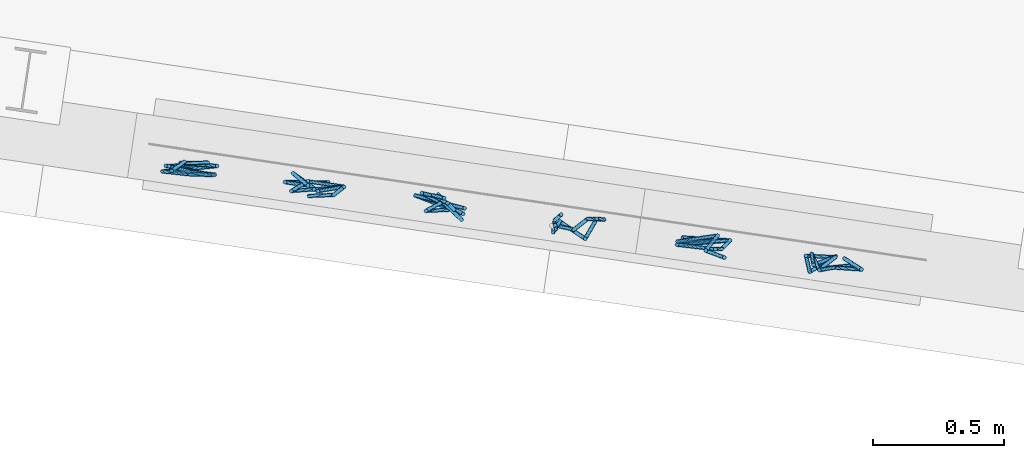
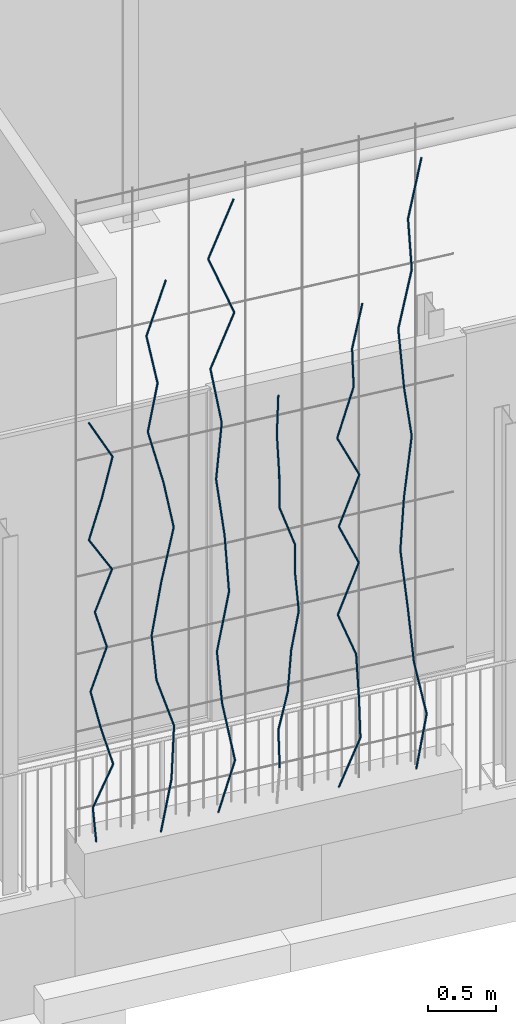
# One storey, part 116 of 142: 65 members, 1 element without a shape of its own.
"""IFC4 building model written with IfcOpenShell, lengths in metres."""

import ifcopenshell
import ifcopenshell.guid

model = None  # the IFC model being written
_history = None  # IfcOwnerHistory: only IFC2X3 demands one
_inside = {}  # id of a spatial element -> (the spatial element, [elements in it])
_under = {}  # id of a project, library or spatial element -> (it, [spatial elements below it])
_declared = {}  # id of a project -> (the project, [libraries it declares])
_typed = {}  # id of a type object -> (the type object, [elements of that type])
_made_of = {}  # id of a material, layer set ... -> (it, [elements and type objects made of it])


def new_model(schema):
    """Start an empty IFC model of exactly this schema.

    Asked for "IFC4X3", IfcOpenShell would pick the latest addendum, in which some entities
    have other attributes; the version numbers below select the first issue.
    IFC2X3 requires an IfcOwnerHistory on every rooted entity: one is made here for all.
    """
    global model, _history
    if schema == "IFC4X3":
        model = ifcopenshell.file(schema_version=(4, 3, 0, 0))
    else:
        model = ifcopenshell.file(schema=schema)
    _inside.clear()
    _under.clear()
    _declared.clear()
    _typed.clear()
    _made_of.clear()
    _history = None
    if model.schema == "IFC2X3":
        org = make("IfcOrganization", Name="unknown")
        user = make(
            "IfcPersonAndOrganization",
            ThePerson=make("IfcPerson", FamilyName="unknown"),
            TheOrganization=org,
        )
        app = make(
            "IfcApplication",
            ApplicationDeveloper=org,
            Version="unknown",
            ApplicationFullName="unknown",
            ApplicationIdentifier="unknown",
        )
        _history = make(
            "IfcOwnerHistory",
            OwningUser=user,
            OwningApplication=app,
            ChangeAction="ADDED",
            CreationDate=0,
        )
    return model


def make(cls, **values):
    """One entity of the class cls with the attributes given. An attribute that is None is left unset."""
    return model.create_entity(
        cls, **{name: value for name, value in values.items() if value is not None}
    )


def rooted(cls, **values):
    """An entity with a GlobalId (a new one), such as an element, a storey or a relation."""
    return make(cls, GlobalId=ifcopenshell.guid.new(), OwnerHistory=_history, **values)


def si_unit(unit_type, name, prefix=None):
    """IfcSIUnit, for example si_unit("LENGTHUNIT", "METRE", prefix="MILLI")."""
    return make("IfcSIUnit", UnitType=unit_type, Prefix=prefix, Name=name)


def assignment(units):
    """IfcUnitAssignment: the units of a project."""
    return None if units is None else make("IfcUnitAssignment", Units=units)


def point(xyz):
    """IfcCartesianPoint."""
    return None if xyz is None else make("IfcCartesianPoint", Coordinates=xyz)


def direction(xyz):
    """IfcDirection."""
    return None if xyz is None else make("IfcDirection", DirectionRatios=xyz)


def frame(location, z_axis=None, x_axis=None):
    """IfcAxis2Placement3D, a coordinate frame: its origin and axes. An axis left out is left unset."""
    return make(
        "IfcAxis2Placement3D",
        Location=point(location),
        Axis=direction(z_axis),
        RefDirection=direction(x_axis),
    )


def origin_with_axes():
    """The frame at (0, 0, 0) with the z axis (0, 0, 1) and the x axis (1, 0, 0) written out."""
    return frame((0.0, 0.0, 0.0), z_axis=(0.0, 0.0, 1.0), x_axis=(1.0, 0.0, 0.0))


def place(relative_to, where):
    """IfcLocalPlacement: puts the frame where relative to a parent placement (None: the world)."""
    return make(
        "IfcLocalPlacement", PlacementRelTo=relative_to, RelativePlacement=where
    )


def context(
    kind, dimensions, precision=None, world=None, true_north=None, identifier=None
):
    """IfcGeometricRepresentationContext, for example the 3D "Model" context."""
    return make(
        "IfcGeometricRepresentationContext",
        ContextIdentifier=identifier,
        ContextType=kind,
        CoordinateSpaceDimension=dimensions,
        Precision=precision,
        WorldCoordinateSystem=world,
        TrueNorth=true_north,
    )


def subcontext(parent, identifier, kind, view, scale=None):
    """IfcGeometricRepresentationSubContext, for example "Body" below "Model"."""
    return make(
        "IfcGeometricRepresentationSubContext",
        ContextIdentifier=identifier,
        ContextType=kind,
        ParentContext=parent,
        TargetScale=scale,
        TargetView=view,
    )


def project(units=None, contexts=None):
    """IfcProject with its units and contexts."""
    return rooted(
        "IfcProject",
        Name="project",
        RepresentationContexts=contexts,
        UnitsInContext=assignment(units),
    )


def spatial(cls, under=None, at=None, **own):
    """A site, building, storey or space (cls), placed at a placement, below another one or the project."""
    s = rooted(cls, ObjectPlacement=at, **own)
    if under is not None:
        _under.setdefault(under.id(), (under, []))[1].append(s)
    return s


def profile(cls, at=None, kind="AREA", **sizes):
    """A parametric profile (cls). Its sizes go by their IFC names, for example OverallWidth=200.0."""
    return make(cls, ProfileType=kind, Position=at, **sizes)


def circle(**sizes):
    """IfcCircleProfileDef."""
    return profile("IfcCircleProfileDef", **sizes)


def extrude(swept, where, along, depth):
    """IfcExtrudedAreaSolid: the profile swept, set in the frame where, extruded along a direction by depth."""
    return make(
        "IfcExtrudedAreaSolid",
        SweptArea=swept,
        Position=where,
        ExtrudedDirection=direction(along),
        Depth=depth,
    )


def shape(context_of_items, identifier, shape_type, items):
    """IfcShapeRepresentation: the items that make up one representation, for example the "Body"."""
    return make(
        "IfcShapeRepresentation",
        ContextOfItems=context_of_items,
        RepresentationIdentifier=identifier,
        RepresentationType=shape_type,
        Items=items,
    )


def material(Name=None, Category=None):
    """IfcMaterial."""
    return make("IfcMaterial", Name=Name, Category=Category)


def material_profile(
    of_material, cross_section, Name=None, Category=None, Priority=None
):
    """IfcMaterialProfile: a cross section and its material."""
    return make(
        "IfcMaterialProfile",
        Name=Name,
        Material=of_material,
        Profile=cross_section,
        Priority=Priority,
        Category=Category,
    )


def profile_set(profiles, Name=None, composite=None):
    """IfcMaterialProfileSet."""
    return make(
        "IfcMaterialProfileSet",
        Name=Name,
        MaterialProfiles=profiles,
        CompositeProfile=composite,
    )


def profile_usage(for_profile_set, cardinal=None, extent=None):
    """IfcMaterialProfileSetUsage: how a profile set lies along its element."""
    return make(
        "IfcMaterialProfileSetUsage",
        ForProfileSet=for_profile_set,
        CardinalPoint=cardinal,
        ReferenceExtent=extent,
    )


def made_of(thing, what):
    """Note that an element or type object is made of a material, layer set ...; save() writes the relation."""
    if what is not None:
        _made_of.setdefault(what.id(), (what, []))[1].append(thing)
    return thing


def type_object(cls, material=None, **own):
    """A type object (cls), such as IfcWallType, which elements share."""
    return made_of(rooted(cls, **own), material)


def element(
    cls,
    number,
    at=None,
    inside=None,
    cuts=None,
    type_object=None,
    material=None,
    context=None,
    identifier="Body",
    shape_type=None,
    held_by="IfcProductDefinitionShape",
    body=None,
    shapes=None,
    **own,
):
    """One element of the class cls, such as IfcWall. Its Tag is "e" and its number.

    at: its placement. inside: the storey or other place that contains it. cuts: it is an
    opening in that element (IfcRelVoidsElement). A single representation is given by context,
    identifier, shape_type and body (its items); several are given by shapes. held_by: the class
    of the entity that holds the representations. save() writes the other relations.
    """
    e = rooted(cls, Tag="e%d" % number, ObjectPlacement=at, **own)
    if body is not None:
        shapes = [shape(context, identifier, shape_type, body)]
    if shapes is not None:
        e.Representation = make(held_by, Representations=shapes)
    if inside is not None:
        _inside.setdefault(inside.id(), (inside, []))[1].append(e)
    if cuts is not None:
        rooted(
            "IfcRelVoidsElement", RelatingBuildingElement=cuts, RelatedOpeningElement=e
        )
    if type_object is not None:
        _typed.setdefault(type_object.id(), (type_object, []))[1].append(e)
    return made_of(e, material)


def aggregate(whole, parts):
    """IfcRelAggregates: a whole, such as a stair, and the parts it consists of."""
    return rooted("IfcRelAggregates", RelatingObject=whole, RelatedObjects=parts)


def save(model, path):
    """Write the relations noted so far, then the file.

    IfcRelAggregates (storeys below a building ...), IfcRelContainedInSpatialStructure (elements
    in a storey), IfcRelDefinesByType, IfcRelAssociatesMaterial and IfcRelDeclares: one each for
    every whole, place, type object, material and project.
    """
    for whole, parts in _under.values():
        aggregate(whole, parts)
    for where, things in _inside.values():
        rooted(
            "IfcRelContainedInSpatialStructure",
            RelatedElements=things,
            RelatingStructure=where,
        )
    for kind, things in _typed.values():
        rooted("IfcRelDefinesByType", RelatedObjects=things, RelatingType=kind)
    for what, things in _made_of.values():
        rooted("IfcRelAssociatesMaterial", RelatedObjects=things, RelatingMaterial=what)
    for by, libraries in _declared.values():
        rooted("IfcRelDeclares", RelatingContext=by, RelatedDefinitions=libraries)
    model.write(path)


model = new_model("IFC4")

# Units and contexts
model_context = context("Model", 3, precision=1e-05, world=origin_with_axes(), true_north=direction((0.0, 1.0)))
body_context = subcontext(model_context, "Body", "Model", "MODEL_VIEW")
ifc_project = project(units=[si_unit("VOLUMEUNIT", "CUBIC_METRE"), si_unit("LENGTHUNIT", "METRE"), si_unit("AREAUNIT", "SQUARE_METRE")], contexts=[model_context])

# Site, building, storey
site_placement = place(None, origin_with_axes())
site = spatial("IfcSite", under=ifc_project, at=site_placement, Name="Lares · Rua das Mercês · artigo 4771")
building_placement = place(site_placement, frame((12.0, 10.2, 13.9), z_axis=(0.0, 0.0, 1.0), x_axis=(0.989015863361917, -0.147809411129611, 0.0)))
building = spatial("IfcBuilding", under=site, at=building_placement, Name="Casa Sobreposta")
storey_placement = place(building_placement, origin_with_axes())
storey = spatial("IfcBuildingStorey", under=building, at=storey_placement, Name="00 · Habitação e estacionamento", Elevation=13.9)

# Assembly, members
assembly_placement = place(storey_placement, origin_with_axes())
assembly = element("IfcElementAssembly", 1, at=assembly_placement, inside=storey, Name="Fachada sul e pátio · estrutura e trepadeiras", ObjectType="LIVING_SHADE_TRELLIS", PredefinedType="USERDEFINED")
ifc_material = material(Name="Ramos de trepadeiras", Category="wood")
ifc_material_profile = material_profile(ifc_material, circle(Radius=0.0075))
ifc_profile_set = profile_set([ifc_material_profile], Name="D0.015")
ifc_profile_usage_1 = profile_usage(ifc_profile_set)
member_type = type_object("IfcMemberType", Name="D0.015 / vine_wood", PredefinedType="NOTDEFINED", material=ifc_profile_set)
member_1_placement = place(assembly_placement, frame((16.6437823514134, -1.65744029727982, 0.35), z_axis=(-0.125335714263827, -0.117489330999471, 0.985133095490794), x_axis=(-0.683901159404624, 0.729574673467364, 0.0)))
member_1 = element("IfcMember", 2, at=member_1_placement, type_object=member_type, material=ifc_profile_usage_1, Name="Trepadeiras · ramo", context=body_context, shape_type="SweptSolid", body=[
    extrude(circle(Radius=0.0075), origin_with_axes(), (0.0, 0.0, 1.0), 0.352596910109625),
])
ifc_profile_usage_2 = profile_usage(ifc_profile_set)
member_2_placement = place(assembly_placement, frame((16.5995893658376, -1.69886667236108, 0.697354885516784), z_axis=(0.431298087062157, 0.025974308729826, 0.901835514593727), x_axis=(0.0601146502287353, -0.998191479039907, 3.62071145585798e-18)))
member_2 = element("IfcMember", 3, at=member_2_placement, type_object=member_type, material=ifc_profile_usage_2, Name="Trepadeiras · ramo", context=body_context, shape_type="SweptSolid", body=[
    extrude(circle(Radius=0.0075), origin_with_axes(), (0.0, 0.0, 1.0), 0.385164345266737),
])
ifc_profile_usage_3 = profile_usage(ifc_profile_set)
member_3_placement = place(assembly_placement, frame((16.7657100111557, -1.6888622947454, 1.04470977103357), z_axis=(-0.272189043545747, -0.00629168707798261, 0.962223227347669), x_axis=(-0.0231089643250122, 0.999732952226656, -7.66354077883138e-19)))
member_3 = element("IfcMember", 4, at=member_3_placement, type_object=member_type, material=ifc_profile_usage_3, Name="Trepadeiras · ramo", context=body_context, shape_type="SweptSolid", body=[
    extrude(circle(Radius=0.0075), origin_with_axes(), (0.0, 0.0, 1.0), 0.360991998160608),
])
ifc_profile_usage_4 = profile_usage(ifc_profile_set)
member_4_placement = place(assembly_placement, frame((16.6674519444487, -1.69113354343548, 1.39206465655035), z_axis=(-0.223345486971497, 0.0225816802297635, 0.974477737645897), x_axis=(0.100593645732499, 0.994927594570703, 0.0)))
member_4 = element("IfcMember", 5, at=member_4_placement, type_object=member_type, material=ifc_profile_usage_4, Name="Trepadeiras · ramo", context=body_context, shape_type="SweptSolid", body=[
    extrude(circle(Radius=0.0075), origin_with_axes(), (0.0, 0.0, 1.0), 0.356452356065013),
])
ifc_profile_usage_5 = profile_usage(ifc_profile_set)
member_5_placement = place(assembly_placement, frame((16.5878399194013, -1.68308425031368, 1.73941954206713), z_axis=(0.380513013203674, 0.0935831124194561, 0.920028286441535), x_axis=(0.23882262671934, -0.971063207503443, 0.0)))
member_5 = element("IfcMember", 6, at=member_5_placement, type_object=member_type, material=ifc_profile_usage_5, Name="Trepadeiras · ramo", context=body_context, shape_type="SweptSolid", body=[
    extrude(circle(Radius=0.0075), origin_with_axes(), (0.0, 0.0, 1.0), 0.377548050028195),
])
ifc_profile_usage_6 = profile_usage(ifc_profile_set)
member_6_placement = place(assembly_placement, frame((16.7315018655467, -1.64775212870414, 2.08677442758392), z_axis=(-0.281212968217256, -0.0458064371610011, 0.958551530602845), x_axis=(-0.160769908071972, 0.986991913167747, 0.0)))
member_6 = element("IfcMember", 7, at=member_6_placement, type_object=member_type, material=ifc_profile_usage_6, Name="Trepadeiras · ramo", context=body_context, shape_type="SweptSolid", body=[
    extrude(circle(Radius=0.0075), origin_with_axes(), (0.0, 0.0, 1.0), 0.362374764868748),
])
ifc_profile_usage_7 = profile_usage(ifc_profile_set)
member_7_placement = place(assembly_placement, frame((16.6295973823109, -1.66435122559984, 2.4341293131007), z_axis=(0.373944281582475, 0.0247671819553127, 0.927120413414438), x_axis=(0.0660874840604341, -0.997813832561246, 0.0)))
member_7 = element("IfcMember", 8, at=member_7_placement, type_object=member_type, material=ifc_profile_usage_7, Name="Trepadeiras · ramo", context=body_context, shape_type="SweptSolid", body=[
    extrude(circle(Radius=0.0075), origin_with_axes(), (0.0, 0.0, 1.0), 0.374659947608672),
])
ifc_profile_usage_8 = profile_usage(ifc_profile_set)
member_8_placement = place(assembly_placement, frame((16.7696993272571, -1.65507195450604, 2.78148419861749), z_axis=(-0.501884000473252, -0.125757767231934, 0.855743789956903), x_axis=(-0.243057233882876, 0.970011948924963, 0.0)))
member_8 = element("IfcMember", 9, at=member_8_placement, type_object=member_type, material=ifc_profile_usage_8, Name="Trepadeiras · ramo", context=body_context, shape_type="SweptSolid", body=[
    extrude(circle(Radius=0.0075), origin_with_axes(), (0.0, 0.0, 1.0), 0.40590991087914),
])
ifc_profile_usage_9 = profile_usage(ifc_profile_set)
member_9_placement = place(assembly_placement, frame((16.5659796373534, -1.70611827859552, 3.12883908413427), z_axis=(0.28716983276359, 0.011629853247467, 0.9578090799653), x_axis=(0.040465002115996, -0.999180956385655, 0.0)))
member_9 = element("IfcMember", 10, at=member_9_placement, type_object=member_type, material=ifc_profile_usage_9, Name="Trepadeiras · ramo", context=body_context, shape_type="SweptSolid", body=[
    extrude(circle(Radius=0.0075), origin_with_axes(), (0.0, 0.0, 1.0), 0.362655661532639),
])
ifc_profile_usage_10 = profile_usage(ifc_profile_set)
member_10_placement = place(assembly_placement, frame((16.6701234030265, -1.70190064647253, 3.47619396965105), z_axis=(0.249343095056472, 0.0291380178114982, 0.967976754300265), x_axis=(0.116069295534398, -0.993241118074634, 0.0)))
member_10 = element("IfcMember", 11, at=member_10_placement, type_object=member_type, material=ifc_profile_usage_10, Name="Trepadeiras · ramo", context=body_context, shape_type="SweptSolid", body=[
    extrude(circle(Radius=0.0075), origin_with_axes(), (0.0, 0.0, 1.0), 0.358846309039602),
])
ifc_profile_usage_11 = profile_usage(ifc_profile_set)
member_11_placement = place(assembly_placement, frame((16.759599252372, -1.69144457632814, 3.82354885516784), z_axis=(-0.470201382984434, 0.0215530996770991, 0.882295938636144), x_axis=(0.0457899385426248, 0.998951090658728, 0.0)))
member_11 = element("IfcMember", 12, at=member_11_placement, type_object=member_type, material=ifc_profile_usage_11, Name="Trepadeiras · ramo", context=body_context, shape_type="SweptSolid", body=[
    extrude(circle(Radius=0.0075), origin_with_axes(), (0.0, 0.0, 1.0), 0.393694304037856),
])
ifc_profile_usage_12 = profile_usage(ifc_profile_set)
member_12_placement = place(assembly_placement, frame((17.1334743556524, -1.71608831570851, 0.35), z_axis=(0.201113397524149, 0.0382970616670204, 0.978819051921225), x_axis=(0.187063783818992, -0.982347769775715, 0.0)))
member_12 = element("IfcMember", 13, at=member_12_placement, type_object=member_type, material=ifc_profile_usage_12, Name="Trepadeiras · ramo", context=body_context, shape_type="SweptSolid", body=[
    extrude(circle(Radius=0.0075), origin_with_axes(), (0.0, 0.0, 1.0), 0.457949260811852),
])
ifc_profile_usage_13 = profile_usage(ifc_profile_set)
member_13_placement = place(assembly_placement, frame((17.2255740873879, -1.69855020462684, 0.798249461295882), z_axis=(0.0767993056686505, 0.0814555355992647, 0.993713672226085), x_axis=(0.727596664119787, -0.68600517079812, 0.0)))
member_13 = element("IfcMember", 14, at=member_13_placement, type_object=member_type, material=ifc_profile_usage_13, Name="Trepadeiras · ramo", context=body_context, shape_type="SweptSolid", body=[
    extrude(circle(Radius=0.0075), origin_with_axes(), (0.0, 0.0, 1.0), 0.451085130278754),
])
ifc_profile_usage_14 = profile_usage(ifc_profile_set)
member_14_placement = place(assembly_placement, frame((17.2602171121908, -1.66180682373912, 1.24649892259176), z_axis=(-0.298062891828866, -0.000194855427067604, 0.954546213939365), x_axis=(-0.00065373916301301, 0.999999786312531, 0.0)))
member_14 = element("IfcMember", 15, at=member_14_placement, type_object=member_type, material=ifc_profile_usage_14, Name="Trepadeiras · ramo", context=body_context, shape_type="SweptSolid", body=[
    extrude(circle(Radius=0.0075), origin_with_axes(), (0.0, 0.0, 1.0), 0.469594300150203),
])
ifc_profile_usage_15 = profile_usage(ifc_profile_set)
member_15_placement = place(assembly_placement, frame((17.1202484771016, -1.66189832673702, 1.69474838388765), z_axis=(-0.123936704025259, -0.0998765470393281, 0.987250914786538), x_axis=(-0.627476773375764, 0.778635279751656, 0.0)))
member_15 = element("IfcMember", 16, at=member_15_placement, type_object=member_type, material=ifc_profile_usage_15, Name="Trepadeiras · ramo", context=body_context, shape_type="SweptSolid", body=[
    extrude(circle(Radius=0.0075), origin_with_axes(), (0.0, 0.0, 1.0), 0.45403803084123),
])
ifc_profile_usage_16 = profile_usage(ifc_profile_set)
member_16_placement = place(assembly_placement, frame((17.0639765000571, -1.70724607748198, 2.14299784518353), z_axis=(0.184612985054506, 0.0413662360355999, 0.981940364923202), x_axis=(0.218648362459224, -0.975803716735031, 0.0)))
member_16 = element("IfcMember", 17, at=member_16_placement, type_object=member_type, material=ifc_profile_usage_16, Name="Trepadeiras · ramo", context=body_context, shape_type="SweptSolid", body=[
    extrude(circle(Radius=0.0075), origin_with_axes(), (0.0, 0.0, 1.0), 0.456493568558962),
])
ifc_profile_usage_17 = profile_usage(ifc_profile_set)
member_17_placement = place(assembly_placement, frame((17.1482511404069, -1.68836265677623, 2.59124730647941), z_axis=(0.236385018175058, 0.0561572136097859, 0.970035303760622), x_axis=(0.231133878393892, -0.972921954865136, 0.0)))
member_17 = element("IfcMember", 18, at=member_17_placement, type_object=member_type, material=ifc_profile_usage_17, Name="Trepadeiras · ramo", context=body_context, shape_type="SweptSolid", body=[
    extrude(circle(Radius=0.0075), origin_with_axes(), (0.0, 0.0, 1.0), 0.462096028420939),
])
ifc_profile_usage_18 = profile_usage(ifc_profile_set)
member_18_placement = place(assembly_placement, frame((17.2574837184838, -1.66241263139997, 3.03949676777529), z_axis=(-0.203403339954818, -0.0669733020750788, 0.976801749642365), x_axis=(-0.31274655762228, 0.949836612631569, 0.0)))
member_18 = element("IfcMember", 19, at=member_18_placement, type_object=member_type, material=ifc_profile_usage_18, Name="Trepadeiras · ramo", context=body_context, shape_type="SweptSolid", body=[
    extrude(circle(Radius=0.0075), origin_with_axes(), (0.0, 0.0, 1.0), 0.458895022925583),
])
ifc_profile_usage_19 = profile_usage(ifc_profile_set)
member_19_placement = place(assembly_placement, frame((17.1641429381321, -1.69314634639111, 3.48774622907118), z_axis=(-0.224295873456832, 0.115463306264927, 0.967656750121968), x_axis=(0.457696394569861, 0.889108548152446, 0.0)))
member_19 = element("IfcMember", 20, at=member_19_placement, type_object=member_type, material=ifc_profile_usage_19, Name="Trepadeiras · ramo", context=body_context, shape_type="SweptSolid", body=[
    extrude(circle(Radius=0.0075), origin_with_axes(), (0.0, 0.0, 1.0), 0.463231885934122),
])
ifc_profile_usage_20 = profile_usage(ifc_profile_set)
member_20_placement = place(assembly_placement, frame((17.0602419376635, -1.63966006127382, 3.93599569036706), z_axis=(0.138490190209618, -0.082918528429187, 0.986886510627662), x_axis=(-0.513695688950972, -0.857972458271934, 0.0)))
member_20 = element("IfcMember", 21, at=member_20_placement, type_object=member_type, material=ifc_profile_usage_20, Name="Trepadeiras · ramo", context=body_context, shape_type="SweptSolid", body=[
    extrude(circle(Radius=0.0075), origin_with_axes(), (0.0, 0.0, 1.0), 0.454205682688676),
])
ifc_profile_usage_21 = profile_usage(ifc_profile_set)
member_21_placement = place(assembly_placement, frame((17.1231449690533, -1.67732212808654, 4.38424515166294), z_axis=(-0.193845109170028, -0.000843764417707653, 0.9810317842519), x_axis=(-0.00435273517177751, 0.999990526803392, 0.0)))
member_21 = element("IfcMember", 22, at=member_21_placement, type_object=member_type, material=ifc_profile_usage_21, Name="Trepadeiras · ramo", context=body_context, shape_type="SweptSolid", body=[
    extrude(circle(Radius=0.0075), origin_with_axes(), (0.0, 0.0, 1.0), 0.456916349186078),
])
ifc_profile_usage_22 = profile_usage(ifc_profile_set)
member_22_placement = place(assembly_placement, frame((17.0345739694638, -1.67770765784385, 4.83249461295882), z_axis=(0.341901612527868, 0.0500748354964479, 0.938400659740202), x_axis=(0.144913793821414, -0.989444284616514, 0.0)))
member_22 = element("IfcMember", 23, at=member_22_placement, type_object=member_type, material=ifc_profile_usage_22, Name="Trepadeiras · ramo", context=body_context, shape_type="SweptSolid", body=[
    extrude(circle(Radius=0.0075), origin_with_axes(), (0.0, 0.0, 1.0), 0.477673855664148),
])
ifc_profile_usage_23 = profile_usage(ifc_profile_set)
member_23_placement = place(assembly_placement, frame((17.6199550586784, -1.63810039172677, 0.35), z_axis=(0.196294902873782, -0.15611312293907, 0.968037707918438), x_axis=(-0.622448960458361, -0.782660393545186, 0.0)))
member_23 = element("IfcMember", 24, at=member_23_placement, type_object=member_type, material=ifc_profile_usage_23, Name="Trepadeiras · ramo", context=body_context, shape_type="SweptSolid", body=[
    extrude(circle(Radius=0.0075), origin_with_axes(), (0.0, 0.0, 1.0), 0.520207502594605),
])
ifc_profile_usage_24 = profile_usage(ifc_profile_set)
member_24_placement = place(assembly_placement, frame((17.7220691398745, -1.71931160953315, 0.853580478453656), z_axis=(-0.158176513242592, 0.109824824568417, 0.981284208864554), x_axis=(0.570325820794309, 0.821418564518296, 0.0)))
member_24 = element("IfcMember", 25, at=member_24_placement, type_object=member_type, material=ifc_profile_usage_24, Name="Trepadeiras · ramo", context=body_context, shape_type="SweptSolid", body=[
    extrude(circle(Radius=0.0075), origin_with_axes(), (0.0, 0.0, 1.0), 0.513185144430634),
])
ifc_profile_usage_25 = profile_usage(ifc_profile_set)
member_25_placement = place(assembly_placement, frame((17.6408953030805, -1.66295114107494, 1.35716095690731), z_axis=(-0.112928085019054, -0.0854996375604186, 0.989917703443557), x_axis=(-0.603624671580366, 0.797268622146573, 0.0)))
member_25 = element("IfcMember", 26, at=member_25_placement, type_object=member_type, material=ifc_profile_usage_25, Name="Trepadeiras · ramo", context=body_context, shape_type="SweptSolid", body=[
    extrude(circle(Radius=0.0075), origin_with_axes(), (0.0, 0.0, 1.0), 0.508709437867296),
])
ifc_profile_usage_26 = profile_usage(ifc_profile_set)
member_26_placement = place(assembly_placement, frame((17.5834477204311, -1.70644561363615, 1.86074143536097), z_axis=(0.202648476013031, 0.0401214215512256, 0.978429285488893), x_axis=(0.19421545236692, -0.980958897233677, 0.0)))
member_26 = element("IfcMember", 27, at=member_26_placement, type_object=member_type, material=ifc_profile_usage_26, Name="Trepadeiras · ramo", context=body_context, shape_type="SweptSolid", body=[
    extrude(circle(Radius=0.0075), origin_with_axes(), (0.0, 0.0, 1.0), 0.514682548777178),
])
ifc_profile_usage_27 = profile_usage(ifc_profile_set)
member_27_placement = place(assembly_placement, frame((17.6877473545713, -1.68579581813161, 2.36432191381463), z_axis=(-0.0542606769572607, 0.0400448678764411, 0.997723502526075), x_axis=(0.59380737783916, 0.804607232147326, 0.0)))
member_27 = element("IfcMember", 28, at=member_27_placement, type_object=member_type, material=ifc_profile_usage_27, Name="Trepadeiras · ramo", context=body_context, shape_type="SweptSolid", body=[
    extrude(circle(Radius=0.0075), origin_with_axes(), (0.0, 0.0, 1.0), 0.50472949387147),
])
ifc_profile_usage_28 = profile_usage(ifc_profile_set)
member_28_placement = place(assembly_placement, frame((17.6603603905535, -1.66558399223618, 2.86790239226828), z_axis=(-0.115554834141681, 0.0430327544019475, 0.992368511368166), x_axis=(0.348987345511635, 0.937127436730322, 0.0)))
member_28 = element("IfcMember", 29, at=member_28_placement, type_object=member_type, material=ifc_profile_usage_28, Name="Trepadeiras · ramo", context=body_context, shape_type="SweptSolid", body=[
    extrude(circle(Radius=0.0075), origin_with_axes(), (0.0, 0.0, 1.0), 0.50745310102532),
])
ifc_profile_usage_29 = profile_usage(ifc_profile_set)
member_29_placement = place(assembly_placement, frame((17.6017217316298, -1.64374688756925, 3.37148287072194), z_axis=(0.084928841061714, -0.00928811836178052, 0.996343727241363), x_axis=(-0.108715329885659, -0.994072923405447, 0.0)))
member_29 = element("IfcMember", 30, at=member_29_placement, type_object=member_type, material=ifc_profile_usage_29, Name="Trepadeiras · ramo", context=body_context, shape_type="SweptSolid", body=[
    extrude(circle(Radius=0.0075), origin_with_axes(), (0.0, 0.0, 1.0), 0.505428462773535),
])
ifc_profile_usage_30 = profile_usage(ifc_profile_set)
member_30_placement = place(assembly_placement, frame((17.6446471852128, -1.6484413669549, 3.87506334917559), z_axis=(-0.170887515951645, 0.012668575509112, 0.985209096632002), x_axis=(0.0739311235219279, 0.997263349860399, 0.0)))
member_30 = element("IfcMember", 31, at=member_30_placement, type_object=member_type, material=ifc_profile_usage_30, Name="Trepadeiras · ramo", context=body_context, shape_type="SweptSolid", body=[
    extrude(circle(Radius=0.0075), origin_with_axes(), (0.0, 0.0, 1.0), 0.511140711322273),
])
ifc_profile_usage_31 = profile_usage(ifc_profile_set)
member_31_placement = place(assembly_placement, frame((17.5572996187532, -1.64196594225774, 4.37864382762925), z_axis=(0.315298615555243, -0.102581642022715, 0.94343192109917), x_axis=(-0.309385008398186, -0.950936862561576, 0.0)))
member_31 = element("IfcMember", 32, at=member_31_placement, type_object=member_type, material=ifc_profile_usage_31, Name="Trepadeiras · ramo", context=body_context, shape_type="SweptSolid", body=[
    extrude(circle(Radius=0.0075), origin_with_axes(), (0.0, 0.0, 1.0), 0.533775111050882),
])
ifc_profile_usage_32 = profile_usage(ifc_profile_set)
member_32_placement = place(assembly_placement, frame((17.7255981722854, -1.69672146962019, 4.88222430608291), z_axis=(-0.353324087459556, 0.0784717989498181, 0.932203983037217), x_axis=(0.216812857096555, 0.976213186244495, 0.0)))
member_32 = element("IfcMember", 33, at=member_32_placement, type_object=member_type, material=ifc_profile_usage_32, Name="Trepadeiras · ramo", context=body_context, shape_type="SweptSolid", body=[
    extrude(circle(Radius=0.0075), origin_with_axes(), (0.0, 0.0, 1.0), 0.540204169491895),
])
ifc_profile_usage_33 = profile_usage(ifc_profile_set)
member_33_placement = place(assembly_placement, frame((17.5347310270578, -1.65433067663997, 5.38580478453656), z_axis=(0.357502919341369, -0.0392603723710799, 0.93308642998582), x_axis=(-0.109162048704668, -0.994023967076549, 0.0)))
member_33 = element("IfcMember", 34, at=member_33_placement, type_object=member_type, material=ifc_profile_usage_33, Name="Trepadeiras · ramo", context=body_context, shape_type="SweptSolid", body=[
    extrude(circle(Radius=0.0075), origin_with_axes(), (0.0, 0.0, 1.0), 0.539693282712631),
])
ifc_profile_usage_34 = profile_usage(ifc_profile_set)
member_34_placement = place(assembly_placement, frame((18.0844313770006, -1.70212599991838, 0.682260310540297), z_axis=(-0.0163476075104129, 0.0411831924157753, 0.999017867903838), x_axis=(0.999866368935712, 0.000673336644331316, 0.0163337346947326)))
member_34 = element("IfcMember", 35, at=member_34_placement, type_object=member_type, material=ifc_profile_usage_34, Name="Trepadeiras · ramo", context=body_context, shape_type="SweptSolid", body=[
    extrude(circle(Radius=0.0075), origin_with_axes(), (0.0, 0.0, 1.0), 0.332586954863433),
])
ifc_profile_usage_35 = profile_usage(ifc_profile_set)
member_35_placement = place(assembly_placement, frame((18.0789943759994, -1.68842900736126, 1.01452062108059), z_axis=(0.214846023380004, -0.0161481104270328, 0.976514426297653), x_axis=(-0.0749499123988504, -0.997187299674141, 0.0)))
member_35 = element("IfcMember", 36, at=member_35_placement, type_object=member_type, material=ifc_profile_usage_35, Name="Trepadeiras · ramo", context=body_context, shape_type="SweptSolid", body=[
    extrude(circle(Radius=0.0075), origin_with_axes(), (0.0, 0.0, 1.0), 0.340251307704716),
])
ifc_profile_usage_36 = profile_usage(ifc_profile_set)
member_36_placement = place(assembly_placement, frame((18.1520960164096, -1.69392342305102, 1.34678093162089), z_axis=(0.136806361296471, 0.144435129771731, 0.980011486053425), x_axis=(0.726020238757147, -0.687673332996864, 0.0)))
member_36 = element("IfcMember", 37, at=member_36_placement, type_object=member_type, material=ifc_profile_usage_36, Name="Trepadeiras · ramo", context=body_context, shape_type="SweptSolid", body=[
    extrude(circle(Radius=0.0075), origin_with_axes(), (0.0, 0.0, 1.0), 0.339037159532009),
])
ifc_profile_usage_37 = profile_usage(ifc_profile_set)
member_37_placement = place(assembly_placement, frame((18.1984784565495, -1.64495454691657, 1.67904124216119), z_axis=(0.184848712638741, 0.0180286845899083, 0.982601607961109), x_axis=(0.0970715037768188, -0.995277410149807, 0.0)))
member_37 = element("IfcMember", 38, at=member_37_placement, type_object=member_type, material=ifc_profile_usage_37, Name="Trepadeiras · ramo", context=body_context, shape_type="SweptSolid", body=[
    extrude(circle(Radius=0.0075), origin_with_axes(), (0.0, 0.0, 1.0), 0.338143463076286),
])
ifc_profile_usage_38 = profile_usage(ifc_profile_set)
member_38_placement = place(assembly_placement, frame((18.2609838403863, -1.63885826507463, 2.01130155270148), z_axis=(-0.0863639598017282, -0.00316984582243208, 0.996258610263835), x_axis=(-0.0366786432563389, 0.999327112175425, 0.0)))
member_38 = element("IfcMember", 39, at=member_38_placement, type_object=member_type, material=ifc_profile_usage_38, Name="Trepadeiras · ramo", context=body_context, shape_type="SweptSolid", body=[
    extrude(circle(Radius=0.0075), origin_with_axes(), (0.0, 0.0, 1.0), 0.333508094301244),
])
ifc_profile_usage_39 = profile_usage(ifc_profile_set)
member_39_placement = place(assembly_placement, frame((18.2321807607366, -1.6399154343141, 2.34356186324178), z_axis=(-0.0938842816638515, -0.238817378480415, 0.966515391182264), x_axis=(-0.930667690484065, 0.365865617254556, 0.0)))
member_39 = element("IfcMember", 40, at=member_39_placement, type_object=member_type, material=ifc_profile_usage_39, Name="Trepadeiras · ramo", context=body_context, shape_type="SweptSolid", body=[
    extrude(circle(Radius=0.0075), origin_with_axes(), (0.0, 0.0, 1.0), 0.343771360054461),
])
ifc_profile_usage_40 = profile_usage(ifc_profile_set)
member_40_placement = place(assembly_placement, frame((18.1999060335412, -1.72201400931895, 2.67582217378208), z_axis=(-0.29939025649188, 0.145103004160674, 0.943032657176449), x_axis=(0.436137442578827, 0.899880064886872, 0.0)))
member_40 = element("IfcMember", 41, at=member_40_placement, type_object=member_type, material=ifc_profile_usage_40, Name="Trepadeiras · ramo", context=body_context, shape_type="SweptSolid", body=[
    extrude(circle(Radius=0.0075), origin_with_axes(), (0.0, 0.0, 1.0), 0.35233171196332),
])
ifc_profile_usage_41 = profile_usage(ifc_profile_set)
member_41_placement = place(assembly_placement, frame((18.0944213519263, -1.670889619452, 3.00808248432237), z_axis=(-0.0559630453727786, -0.131390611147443, 0.989749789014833), x_axis=(-0.920023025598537, 0.391864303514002, 6.01118427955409e-18)))
member_41 = element("IfcMember", 42, at=member_41_placement, type_object=member_type, material=ifc_profile_usage_41, Name="Trepadeiras · ramo", context=body_context, shape_type="SweptSolid", body=[
    extrude(circle(Radius=0.0075), origin_with_axes(), (0.0, 0.0, 1.0), 0.335701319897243),
])
ifc_profile_usage_42 = profile_usage(ifc_profile_set)
member_42_placement = place(assembly_placement, frame((18.0756344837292, -1.7149976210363, 3.34034279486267), z_axis=(-0.00241143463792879, 0.137675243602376, 0.990474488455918), x_axis=(0.999846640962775, 0.0175126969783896, 0.0)))
member_42 = element("IfcMember", 43, at=member_42_placement, type_object=member_type, material=ifc_profile_usage_42, Name="Trepadeiras · ramo", context=body_context, shape_type="SweptSolid", body=[
    extrude(circle(Radius=0.0075), origin_with_axes(), (0.0, 0.0, 1.0), 0.335455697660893),
])
ifc_profile_usage_43 = profile_usage(ifc_profile_set)
member_43_placement = place(assembly_placement, frame((18.0748255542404, -1.66881367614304, 3.67260310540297), z_axis=(0.0639243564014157, 0.0734451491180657, 0.995248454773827), x_axis=(0.75430535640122, -0.656523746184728, 0.0)))
member_43 = element("IfcMember", 44, at=member_43_placement, type_object=member_type, material=ifc_profile_usage_43, Name="Trepadeiras · ramo", context=body_context, shape_type="SweptSolid", body=[
    extrude(circle(Radius=0.0075), origin_with_axes(), (0.0, 0.0, 1.0), 0.333846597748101),
])
ifc_profile_usage_44 = profile_usage(ifc_profile_set)
member_44_placement = place(assembly_placement, frame((18.5680663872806, -1.66207793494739, 0.35), z_axis=(0.412408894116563, 0.0354071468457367, 0.910310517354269), x_axis=(0.0855397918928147, -0.996334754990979, 0.0)))
member_44 = element("IfcMember", 45, at=member_44_placement, type_object=member_type, material=ifc_profile_usage_44, Name="Trepadeiras · ramo", context=body_context, shape_type="SweptSolid", body=[
    extrude(circle(Radius=0.0075), origin_with_axes(), (0.0, 0.0, 1.0), 0.435767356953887),
])
ifc_profile_usage_45 = profile_usage(ifc_profile_set)
member_45_placement = place(assembly_placement, frame((18.747780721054, -1.64664865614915, 0.746683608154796), z_axis=(-0.065470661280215, -0.0906571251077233, 0.99372776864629), x_axis=(-0.810695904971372, 0.585467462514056, 0.0)))
member_45 = element("IfcMember", 46, at=member_45_placement, type_object=member_type, material=ifc_profile_usage_45, Name="Trepadeiras · ramo", context=body_context, shape_type="SweptSolid", body=[
    extrude(circle(Radius=0.0075), origin_with_axes(), (0.0, 0.0, 1.0), 0.399187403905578),
])
ifc_profile_usage_46 = profile_usage(ifc_profile_set)
member_46_placement = place(assembly_placement, frame((18.7216456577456, -1.68283783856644, 1.14336721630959), z_axis=(-0.0606019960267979, -0.0131741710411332, 0.998075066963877), x_axis=(-0.212426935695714, 0.977176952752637, 0.0)))
member_46 = element("IfcMember", 47, at=member_46_placement, type_object=member_type, material=ifc_profile_usage_46, Name="Trepadeiras · ramo", context=body_context, shape_type="SweptSolid", body=[
    extrude(circle(Radius=0.0075), origin_with_axes(), (0.0, 0.0, 1.0), 0.397448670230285),
])
ifc_profile_usage_47 = profile_usage(ifc_profile_set)
member_47_placement = place(assembly_placement, frame((18.6975594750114, -1.68807389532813, 1.54005082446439), z_axis=(-0.349046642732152, -0.0107278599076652, 0.937043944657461), x_axis=(-0.0307202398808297, 0.999528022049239, 0.0)))
member_47 = element("IfcMember", 48, at=member_47_placement, type_object=member_type, material=ifc_profile_usage_47, Name="Trepadeiras · ramo", context=body_context, shape_type="SweptSolid", body=[
    extrude(circle(Radius=0.0075), origin_with_axes(), (0.0, 0.0, 1.0), 0.423335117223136),
])
ifc_profile_usage_48 = profile_usage(ifc_profile_set)
member_48_placement = place(assembly_placement, frame((18.5497957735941, -1.69261537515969, 1.93673443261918), z_axis=(0.419493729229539, 0.100249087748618, 0.902205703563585), x_axis=(0.232431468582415, -0.972612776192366, 0.0)))
member_48 = element("IfcMember", 49, at=member_48_placement, type_object=member_type, material=ifc_profile_usage_48, Name="Trepadeiras · ramo", context=body_context, shape_type="SweptSolid", body=[
    extrude(circle(Radius=0.0075), origin_with_axes(), (0.0, 0.0, 1.0), 0.439682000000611),
])
ifc_profile_usage_49 = profile_usage(ifc_profile_set)
member_49_placement = place(assembly_placement, frame((18.7342396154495, -1.64853765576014, 2.33341804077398), z_axis=(-0.403063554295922, -0.0984209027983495, 0.909864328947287), x_axis=(-0.237212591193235, 0.971457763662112, 0.0)))
member_49 = element("IfcMember", 50, at=member_49_placement, type_object=member_type, material=ifc_profile_usage_49, Name="Trepadeiras · ramo", context=body_context, shape_type="SweptSolid", body=[
    extrude(circle(Radius=0.0075), origin_with_axes(), (0.0, 0.0, 1.0), 0.435981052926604),
])
ifc_profile_usage_50 = profile_usage(ifc_profile_set)
member_50_placement = place(assembly_placement, frame((18.5585115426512, -1.69144730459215, 2.73010164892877), z_axis=(0.411178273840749, 0.0965607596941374, 0.90642619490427), x_axis=(0.22861963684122, -0.973515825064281, 0.0)))
member_50 = element("IfcMember", 51, at=member_50_placement, type_object=member_type, material=ifc_profile_usage_50, Name="Trepadeiras · ramo", context=body_context, shape_type="SweptSolid", body=[
    extrude(circle(Radius=0.0075), origin_with_axes(), (0.0, 0.0, 1.0), 0.437634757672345),
])
ifc_profile_usage_51 = profile_usage(ifc_profile_set)
member_51_placement = place(assembly_placement, frame((18.7384574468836, -1.64918895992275, 3.12678525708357), z_axis=(-0.428087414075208, -0.0711194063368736, 0.900934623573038), x_axis=(-0.16388665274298, 0.986479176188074, 0.0)))
member_51 = element("IfcMember", 52, at=member_51_placement, type_object=member_type, material=ifc_profile_usage_51, Name="Trepadeiras · ramo", context=body_context, shape_type="SweptSolid", body=[
    extrude(circle(Radius=0.0075), origin_with_axes(), (0.0, 0.0, 1.0), 0.440302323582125),
])
ifc_profile_usage_52 = profile_usage(ifc_profile_set)
member_52_placement = place(assembly_placement, frame((18.54996956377, -1.68050299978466, 3.52346886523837), z_axis=(0.348307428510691, 0.105965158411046, 0.931371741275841), x_axis=(0.291057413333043, -0.956705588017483, 0.0)))
member_52 = element("IfcMember", 53, at=member_52_placement, type_object=member_type, material=ifc_profile_usage_52, Name="Trepadeiras · ramo", context=body_context, shape_type="SweptSolid", body=[
    extrude(circle(Radius=0.0075), origin_with_axes(), (0.0, 0.0, 1.0), 0.425913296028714),
])
ifc_profile_usage_53 = profile_usage(ifc_profile_set)
member_53_placement = place(assembly_placement, frame((18.6983183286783, -1.63537102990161, 3.92015247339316), z_axis=(-0.0910608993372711, -0.156407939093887, 0.983485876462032), x_axis=(-0.864204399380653, 0.503140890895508, 0.0)))
member_53 = element("IfcMember", 54, at=member_53_placement, type_object=member_type, material=ifc_profile_usage_53, Name="Trepadeiras · ramo", context=body_context, shape_type="SweptSolid", body=[
    extrude(circle(Radius=0.0075), origin_with_axes(), (0.0, 0.0, 1.0), 0.403344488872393),
])
ifc_profile_usage_54 = profile_usage(ifc_profile_set)
member_54_placement = place(assembly_placement, frame((18.6615894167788, -1.69845731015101, 4.31683608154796), z_axis=(0.1843751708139, -0.0401044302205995, 0.982037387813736), x_axis=(-0.212545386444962, -0.977151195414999, 0.0)))
member_54 = element("IfcMember", 55, at=member_54_placement, type_object=member_type, material=ifc_profile_usage_54, Name="Trepadeiras · ramo", context=body_context, shape_type="SweptSolid", body=[
    extrude(circle(Radius=0.0075), origin_with_axes(), (0.0, 0.0, 1.0), 0.403939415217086),
])
ifc_profile_usage_55 = profile_usage(ifc_profile_set)
member_55_placement = place(assembly_placement, frame((19.1898417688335, -1.65043430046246, 0.35), z_axis=(0.138740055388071, -0.062169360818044, 0.988375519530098), x_axis=(-0.408921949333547, -0.912569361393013, 0.0)))
member_55 = element("IfcMember", 56, at=member_55_placement, type_object=member_type, material=ifc_profile_usage_55, Name="Trepadeiras · ramo", context=body_context, shape_type="SweptSolid", body=[
    extrude(circle(Radius=0.0075), origin_with_axes(), (0.0, 0.0, 1.0), 0.508560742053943),
])
ifc_profile_usage_56 = profile_usage(ifc_profile_set)
member_56_placement = place(assembly_placement, frame((19.2603995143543, -1.68205119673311, 0.852648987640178), z_axis=(-0.203918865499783, -0.016448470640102, 0.978849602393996), x_axis=(-0.0804007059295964, 0.99676262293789, 0.0)))
member_56 = element("IfcMember", 57, at=member_56_placement, type_object=member_type, material=ifc_profile_usage_56, Name="Trepadeiras · ramo", context=body_context, shape_type="SweptSolid", body=[
    extrude(circle(Radius=0.0075), origin_with_axes(), (0.0, 0.0, 1.0), 0.513509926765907),
])
ifc_profile_usage_57 = profile_usage(ifc_profile_set)
member_57_placement = place(assembly_placement, frame((19.1556851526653, -1.69049764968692, 1.35529797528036), z_axis=(-0.106879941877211, -0.0350587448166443, 0.993653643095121), x_axis=(-0.311680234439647, 0.950187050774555, 0.0)))
member_57 = element("IfcMember", 58, at=member_57_placement, type_object=member_type, material=ifc_profile_usage_57, Name="Trepadeiras · ramo", context=body_context, shape_type="SweptSolid", body=[
    extrude(circle(Radius=0.0075), origin_with_axes(), (0.0, 0.0, 1.0), 0.505859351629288),
])
ifc_profile_usage_58 = profile_usage(ifc_profile_set)
member_58_placement = place(assembly_placement, frame((19.1016189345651, -1.7082324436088, 1.85794696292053), z_axis=(-0.0748386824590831, 0.112071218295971, 0.990878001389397), x_axis=(0.831623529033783, 0.55533981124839, 0.0)))
member_58 = element("IfcMember", 59, at=member_58_placement, type_object=member_type, material=ifc_profile_usage_58, Name="Trepadeiras · ramo", context=body_context, shape_type="SweptSolid", body=[
    extrude(circle(Radius=0.0075), origin_with_axes(), (0.0, 0.0, 1.0), 0.507276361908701),
])
ifc_profile_usage_59 = profile_usage(ifc_profile_set)
member_59_placement = place(assembly_placement, frame((19.0636550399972, -1.65138136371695, 2.36059595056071), z_axis=(0.0254746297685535, -0.0797469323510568, 0.996489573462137), x_axis=(-0.952577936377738, -0.304294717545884, 0.0)))
member_59 = element("IfcMember", 60, at=member_59_placement, type_object=member_type, material=ifc_profile_usage_59, Name="Trepadeiras · ramo", context=body_context, shape_type="SweptSolid", body=[
    extrude(circle(Radius=0.0075), origin_with_axes(), (0.0, 0.0, 1.0), 0.504419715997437),
])
ifc_profile_usage_60 = profile_usage(ifc_profile_set)
member_60_placement = place(assembly_placement, frame((19.0765049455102, -1.69160728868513, 2.86324493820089), z_axis=(0.155101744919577, 0.0869630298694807, 0.984063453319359), x_axis=(0.489057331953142, -0.872251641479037, 0.0)))
member_60 = element("IfcMember", 61, at=member_60_placement, type_object=member_type, material=ifc_profile_usage_60, Name="Trepadeiras · ramo", context=body_context, shape_type="SweptSolid", body=[
    extrude(circle(Radius=0.0075), origin_with_axes(), (0.0, 0.0, 1.0), 0.510789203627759),
])
ifc_profile_usage_61 = profile_usage(ifc_profile_set)
member_61_placement = place(assembly_placement, frame((19.155729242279, -1.64718751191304, 3.36589392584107), z_axis=(-0.173161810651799, -0.141522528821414, 0.974672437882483), x_axis=(-0.632821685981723, 0.774297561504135, 0.0)))
member_61 = element("IfcMember", 62, at=member_61_placement, type_object=member_type, material=ifc_profile_usage_61, Name="Trepadeiras · ramo", context=body_context, shape_type="SweptSolid", body=[
    extrude(circle(Radius=0.0075), origin_with_axes(), (0.0, 0.0, 1.0), 0.515710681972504),
])
ifc_profile_usage_62 = profile_usage(ifc_profile_set)
member_62_placement = place(assembly_placement, frame((19.0664278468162, -1.72017219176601, 3.86854291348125), z_axis=(-0.0461741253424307, 0.115738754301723, 0.992205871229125), x_axis=(0.928812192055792, 0.370550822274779, 0.0)))
member_62 = element("IfcMember", 63, at=member_62_placement, type_object=member_type, material=ifc_profile_usage_62, Name="Trepadeiras · ramo", context=body_context, shape_type="SweptSolid", body=[
    extrude(circle(Radius=0.0075), origin_with_axes(), (0.0, 0.0, 1.0), 0.506597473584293),
])
ifc_profile_usage_63 = profile_usage(ifc_profile_set)
member_63_placement = place(assembly_placement, frame((19.0430361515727, -1.66153923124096, 4.37119190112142), z_axis=(0.216829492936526, 0.0211767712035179, 0.975979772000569), x_axis=(0.0972030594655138, -0.99526457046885, 0.0)))
member_63 = element("IfcMember", 64, at=member_63_placement, type_object=member_type, material=ifc_profile_usage_63, Name="Trepadeiras · ramo", context=body_context, shape_type="SweptSolid", body=[
    extrude(circle(Radius=0.0075), origin_with_axes(), (0.0, 0.0, 1.0), 0.515019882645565),
])
ifc_profile_usage_64 = profile_usage(ifc_profile_set)
member_64_placement = place(assembly_placement, frame((19.154707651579, -1.65063277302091, 4.8738408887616), z_axis=(-0.098262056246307, -0.100013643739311, 0.990122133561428), x_axis=(-0.713325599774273, 0.700832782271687, 0.0)))
member_64 = element("IfcMember", 65, at=member_64_placement, type_object=member_type, material=ifc_profile_usage_64, Name="Trepadeiras · ramo", context=body_context, shape_type="SweptSolid", body=[
    extrude(circle(Radius=0.0075), origin_with_axes(), (0.0, 0.0, 1.0), 0.507663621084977),
])
ifc_profile_usage_65 = profile_usage(ifc_profile_set)
member_65_placement = place(assembly_placement, frame((19.1048235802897, -1.70140606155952, 5.37648987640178), z_axis=(0.228548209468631, 0.0570654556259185, 0.971858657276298), x_axis=(0.242249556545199, -0.970213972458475, 0.0)))
member_65 = element("IfcMember", 66, at=member_65_placement, type_object=member_type, material=ifc_profile_usage_65, Name="Trepadeiras · ramo", context=body_context, shape_type="SweptSolid", body=[
    extrude(circle(Radius=0.0075), origin_with_axes(), (0.0, 0.0, 1.0), 0.517203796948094),
])
aggregate(assembly, [member_1, member_2, member_3, member_4, member_5, member_6, member_7, member_8, member_9, member_10, member_11, member_12, member_13, member_14, member_15, member_16, member_17, member_18, member_19, member_20, member_21, member_22, member_23, member_24, member_25, member_26, member_27, member_28, member_29, member_30, member_31, member_32, member_33, member_34, member_35, member_36, member_37, member_38, member_39, member_40, member_41, member_42, member_43, member_44, member_45, member_46, member_47, member_48, member_49, member_50, member_51, member_52, member_53, member_54, member_55, member_56, member_57, member_58, member_59, member_60, member_61, member_62, member_63, member_64, member_65])

save(model, "model.ifc")
